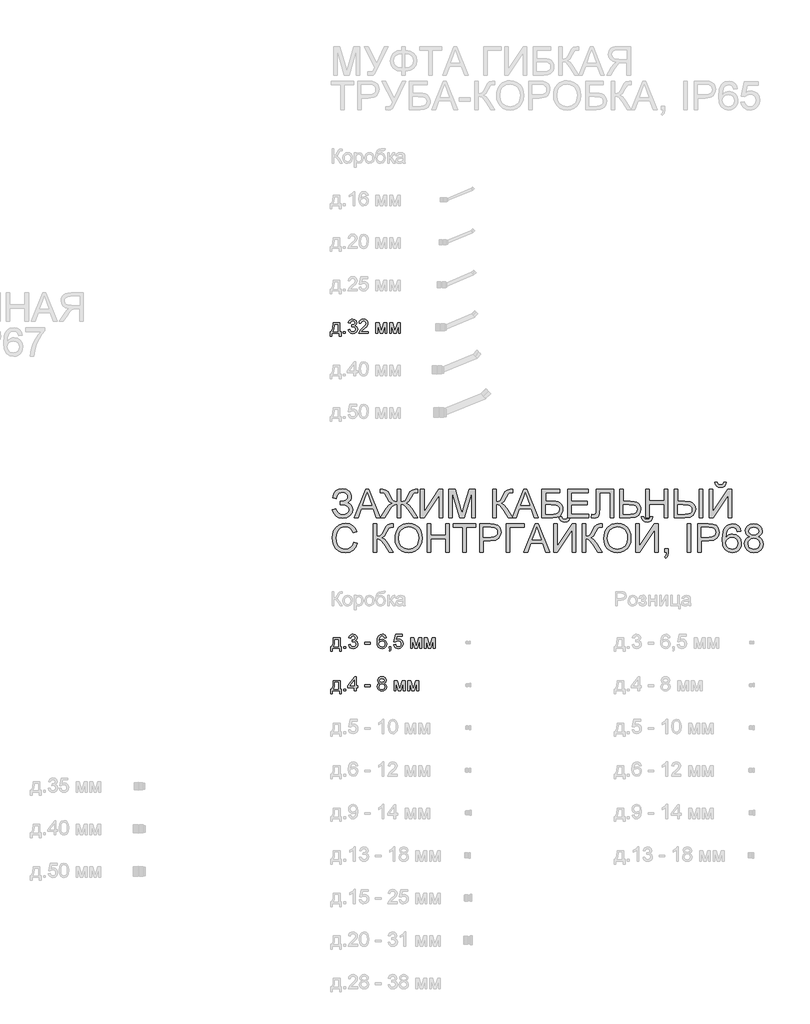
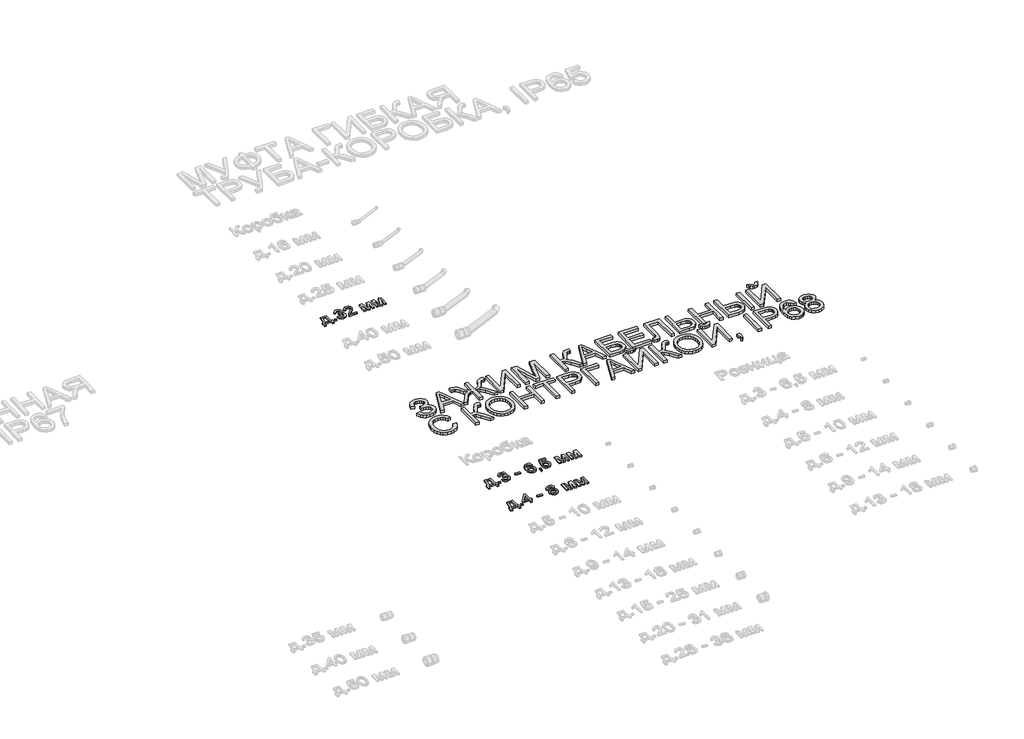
# One storey, part 60 of 98: 4 proxies.
"""IFC4 building model written with IfcOpenShell, lengths in millimetres."""

from ifc_helpers import new_model, si_unit, origin, origin_with_axes, place, context, project, spatial, polyline, outline, extrude, element, save

model = new_model("IFC4")

# Units and contexts
model_context = context("Model", 3, world=origin())
ifc_project = project(units=[si_unit("LENGTHUNIT", "METRE", prefix="MILLI")], contexts=[model_context])

# Site, building, storey
site = spatial("IfcSite", under=ifc_project)
building = spatial("IfcBuilding", under=site)
storey = spatial("IfcBuildingStorey", under=building, Name="Этаж 01", Elevation=0.0)

# Proxies
placement = place(None, origin())
element("IfcBuildingElementProxy", 1, Name="100", ObjectType="100", at=placement, inside=storey, context=model_context, shape_type="SweptSolid", body=[
    extrude(outline(polyline([(14428.905254, -25227.7143815), (14475.9941494, -25227.7143815), (14475.9941494, -25288.9299455), (14485.4119285, -25288.9299455), (14485.4119285, -25321.8921723), (14472.8548897, -25321.8921723), (14472.8548897, -25301.4869843), (14421.0571048, -25301.4869843), (14421.0571048, -25321.8921723), (14408.500066, -25321.8921723), (14408.500066, -25288.9299455), (14416.3482152, -25288.9299455), (14426.0480372, -25264.9808276), (14428.905254, -25227.7143815)]), holes=[polyline([(14439.8926629, -25240.2714203), (14436.949607, -25268.8803768), (14430.4748839, -25288.9299455), (14463.4371106, -25288.9299455), (14463.4371106, -25240.2714203), (14439.8926629, -25240.2714203)])]), origin_with_axes(), (0.0, 0.0, 1.0), 10.0),
    extrude(outline(polyline([(14502.6778568, -25301.4869843), (14502.6778568, -25288.9299455), (14515.2348955, -25288.9299455), (14515.2348955, -25301.4869843), (14502.6778568, -25301.4869843)])), origin_with_axes(), (0.0, 0.0, 1.0), 10.0),
    extrude(outline(polyline([(14535.6400835, -25274.8032769), (14548.1971223, -25273.2336471), (14555.1255666, -25286.4528734), (14568.0872755, -25290.4995754), (14576.6957142, -25289.1077552), (14583.3421156, -25284.9322945), (14589.0074983, -25271.1489824), (14583.3911665, -25258.162748), (14569.1173451, -25253.0246628), (14560.3127027, -25254.3980889), (14561.7106543, -25241.8410502), (14563.7217425, -25241.988203), (14577.9710385, -25238.3829594), (14582.7167162, -25233.8089599), (14584.2986088, -25227.2974486), (14579.7123466, -25217.4749993), (14567.8910718, -25213.5877129), (14555.9226442, -25217.5117875), (14549.7667522, -25229.2840114), (14537.2097134, -25227.7143815), (14540.9069274, -25216.4387984), (14547.4858838, -25208.0204321), (14556.4867299, -25202.7781136), (14567.4496134, -25201.0306742), (14582.5940889, -25204.4765022), (14593.1890903, -25213.8942813), (14596.8556475, -25226.5616846), (14593.3730313, -25238.1377047), (14583.0723355, -25246.4518378), (14596.7575457, -25255.035751), (14601.5645371, -25271.3697116), (14599.1610414, -25283.6079193), (14591.9505543, -25293.8350388), (14581.0673786, -25300.7512203), (14567.6458171, -25303.0566141), (14555.5057113, -25301.0884455), (14545.6219483, -25295.1839395), (14538.7486864, -25286.1524365), (14535.6400835, -25274.8032769)])), origin_with_axes(), (0.0, 0.0, 1.0), 10.0),
    extrude(outline(polyline([(14676.9067697, -25288.9299455), (14676.9067697, -25301.4869843), (14610.9823162, -25301.4869843), (14612.3312168, -25292.8294947), (14619.9586368, -25279.4999037), (14635.6794608, -25264.9440394), (14657.359973, -25244.0238167), (14662.7801011, -25229.7990462), (14657.6665413, -25218.2843397), (14644.3124249, -25213.5877129), (14630.3942228, -25218.1739751), (14625.1089848, -25230.8536412), (14612.551946, -25229.2840114), (14615.5961695, -25217.1377742), (14622.1781915, -25208.2656867), (14631.9546556, -25202.8394273), (14644.5822051, -25201.0306742), (14657.301725, -25203.0417624), (14667.059795, -25209.0750271), (14673.2678036, -25218.088136), (14675.3371398, -25229.0387567), (14673.1053224, -25240.9458706), (14665.6863688, -25253.2576547), (14647.6969393, -25270.4622694), (14633.2514396, -25282.5410616), (14627.5860569, -25288.9299455), (14676.9067697, -25288.9299455)])), origin_with_axes(), (0.0, 0.0, 1.0), 10.0),
    extrude(outline(polyline([(14731.8438143, -25227.7143815), (14753.4507502, -25227.7143815), (14770.1035418, -25286.7717045), (14788.0561832, -25227.7143815), (14808.7556768, -25227.7143815), (14808.7556768, -25301.4869843), (14796.198638, -25301.4869843), (14796.198638, -25242.0863048), (14778.1478948, -25301.4869843), (14761.6667814, -25301.4869843), (14744.4008531, -25239.2413507), (14744.4008531, -25301.4869843), (14731.8438143, -25301.4869843), (14731.8438143, -25227.7143815)])), origin_with_axes(), (0.0, 0.0, 1.0), 10.0),
    extrude(outline(polyline([(14827.5912349, -25227.7143815), (14849.1981708, -25227.7143815), (14865.8509624, -25286.7717045), (14883.8036038, -25227.7143815), (14904.5030974, -25227.7143815), (14904.5030974, -25301.4869843), (14891.9460586, -25301.4869843), (14891.9460586, -25242.0863048), (14873.8953154, -25301.4869843), (14857.414202, -25301.4869843), (14840.1482737, -25239.2413507), (14840.1482737, -25301.4869843), (14827.5912349, -25301.4869843), (14827.5912349, -25227.7143815)])), origin_with_axes(), (0.0, 0.0, 1.0), 10.0),
])
element("IfcBuildingElementProxy", 2, Name="100", ObjectType="100", at=placement, inside=storey, context=model_context, shape_type="SweptSolid", body=[
    extrude(outline(polyline([(14431.7338321, -27449.6891994), (14478.8227275, -27449.6891994), (14478.8227275, -27510.9047634), (14488.2405066, -27510.9047634), (14488.2405066, -27543.8669901), (14475.6834678, -27543.8669901), (14475.6834678, -27523.4618021), (14423.8856829, -27523.4618021), (14423.8856829, -27543.8669901), (14411.3286441, -27543.8669901), (14411.3286441, -27510.9047634), (14419.1767934, -27510.9047634), (14428.8766153, -27486.9556455), (14431.7338321, -27449.6891994)]), holes=[polyline([(14442.721241, -27462.2462382), (14439.7781851, -27490.8551946), (14433.303462, -27510.9047634), (14466.2656887, -27510.9047634), (14466.2656887, -27462.2462382), (14442.721241, -27462.2462382)])]), origin_with_axes(), (0.0, 0.0, 1.0), 10.0),
    extrude(outline(polyline([(14505.5064349, -27523.4618021), (14505.5064349, -27510.9047634), (14518.0634737, -27510.9047634), (14518.0634737, -27523.4618021), (14505.5064349, -27523.4618021)])), origin_with_axes(), (0.0, 0.0, 1.0), 10.0),
    extrude(outline(polyline([(14538.4686617, -27496.7780948), (14551.0257004, -27495.2084649), (14557.9541447, -27508.4276913), (14570.9158536, -27512.4743932), (14579.5242923, -27511.082573), (14586.1706937, -27506.9071124), (14591.8360764, -27493.1238003), (14586.2197446, -27480.1375659), (14571.9459232, -27474.9994807), (14563.1412808, -27476.3729068), (14564.5392324, -27463.815868), (14566.5503206, -27463.9630208), (14580.7996166, -27460.3577772), (14585.5452943, -27455.7837778), (14587.1271869, -27449.2722665), (14582.5409247, -27439.4498172), (14570.7196499, -27435.5625308), (14558.7512223, -27439.4866054), (14552.5953303, -27451.2588292), (14540.0382915, -27449.6891994), (14543.7355056, -27438.4136162), (14550.3144619, -27429.9952499), (14559.3153081, -27424.7529315), (14570.2781915, -27423.005492), (14585.422667, -27426.45132), (14596.0176684, -27435.8690991), (14599.6842257, -27448.5365025), (14596.2016094, -27460.1125226), (14585.9009136, -27468.4266557), (14599.5861238, -27477.0105689), (14604.3931152, -27493.3445295), (14601.9896195, -27505.5827372), (14594.7791324, -27515.8098566), (14583.8959567, -27522.7260382), (14570.4743952, -27525.031432), (14558.3342894, -27523.0632633), (14548.4505265, -27517.1587573), (14541.5772645, -27508.1272543), (14538.4686617, -27496.7780948)])), origin_with_axes(), (0.0, 0.0, 1.0), 10.0),
    extrude(outline(polyline([(14651.4820106, -27493.6388351), (14651.4820106, -27481.0817963), (14690.7227567, -27481.0817963), (14690.7227567, -27493.6388351), (14651.4820106, -27493.6388351)])), origin_with_axes(), (0.0, 0.0, 1.0), 10.0),
    extrude(outline(polyline([(14805.3057355, -27449.6891994), (14792.7486967, -27451.2588292), (14787.9907563, -27440.7864551), (14775.409192, -27435.5625308), (14764.0784266, -27438.6036886), (14755.5067761, -27450.0202932), (14751.9383207, -27472.3997812), (14763.0115688, -27462.3811282), (14776.7335672, -27459.1069785), (14788.3341128, -27461.3449273), (14798.0707229, -27468.0587737), (14804.6742047, -27478.31655), (14806.8753653, -27491.1862884), (14802.7305615, -27508.5135304), (14791.3262197, -27520.7762636), (14774.8696318, -27525.031432), (14760.6234015, -27522.2110034), (14749.2773076, -27513.7497175), (14741.8552884, -27498.8137085), (14739.381282, -27476.5691105), (14742.1281342, -27451.5592662), (14750.3686909, -27434.4588848), (14761.6197486, -27425.8688402), (14776.1940069, -27423.005492), (14787.2120727, -27424.7774569), (14796.0351092, -27430.0933518), (14802.2155267, -27438.5362436), (14805.3057355, -27449.6891994)]), holes=[polyline([(14751.9383207, -27490.9900847), (14754.8445885, -27501.867129), (14762.5701104, -27509.7643292), (14773.8886131, -27512.4743932), (14782.175155, -27511.0703103), (14788.689732, -27506.8580614), (14792.9111779, -27500.2361855), (14794.3183266, -27491.6032214), (14792.929572, -27483.3166794), (14788.7633084, -27476.9983062), (14782.1383668, -27472.9975895), (14773.3735783, -27471.6640172), (14758.1800519, -27476.9983062), (14753.4987535, -27483.1633953), (14751.9383207, -27490.9900847)])]), origin_with_axes(), (0.0, 0.0, 1.0), 10.0),
    extrude(outline(polyline([(14824.1412936, -27523.4618021), (14824.1412936, -27510.9047634), (14836.6983324, -27510.9047634), (14836.6983324, -27523.4618021), (14834.4419895, -27536.3008838), (14827.2805533, -27543.8669901), (14824.1412936, -27539.1581006), (14828.7520813, -27533.7379725), (14830.3952876, -27523.4618021), (14824.1412936, -27523.4618021)])), origin_with_axes(), (0.0, 0.0, 1.0), 10.0),
    extrude(outline(polyline([(14857.1035204, -27496.7780948), (14869.6605592, -27495.2084649), (14875.9881295, -27508.1456484), (14889.109254, -27512.4743932), (14898.1101001, -27510.9691427), (14904.8546034, -27506.4533912), (14909.0668522, -27499.4483049), (14910.4709352, -27490.4750499), (14905.2102226, -27475.5635664), (14898.6036752, -27471.4616821), (14889.3054577, -27470.0943874), (14878.2812606, -27472.2771539), (14871.230189, -27477.9425366), (14858.6731503, -27476.3729068), (14869.6605592, -27424.5751218), (14918.3190844, -27424.5751218), (14918.3190844, -27437.1321606), (14879.8141022, -27437.1321606), (14874.4430251, -27464.7968867), (14883.4132144, -27459.3522331), (14892.8125994, -27457.5373486), (14904.5449694, -27459.7875602), (14914.2846452, -27466.5381948), (14920.8421418, -27476.8266279), (14923.0279739, -27489.690235), (14921.0598053, -27502.2472738), (14915.1552993, -27512.989428), (14903.8490593, -27522.020931), (14889.0602031, -27525.031432), (14876.7269592, -27523.0969858), (14866.9014442, -27517.2936474), (14860.166138, -27508.2958669), (14857.1035204, -27496.7780948)])), origin_with_axes(), (0.0, 0.0, 1.0), 10.0),
    extrude(outline(polyline([(14976.3953887, -27449.6891994), (14998.0023246, -27449.6891994), (15014.6551162, -27508.7465223), (15032.6077576, -27449.6891994), (15053.3072512, -27449.6891994), (15053.3072512, -27523.4618021), (15040.7502124, -27523.4618021), (15040.7502124, -27464.0611227), (15022.6994692, -27523.4618021), (15006.2183558, -27523.4618021), (14988.9524275, -27461.2161686), (14988.9524275, -27523.4618021), (14976.3953887, -27523.4618021), (14976.3953887, -27449.6891994)])), origin_with_axes(), (0.0, 0.0, 1.0), 10.0),
    extrude(outline(polyline([(15072.1428093, -27449.6891994), (15093.7497452, -27449.6891994), (15110.4025368, -27508.7465223), (15128.3551782, -27449.6891994), (15149.0546718, -27449.6891994), (15149.0546718, -27523.4618021), (15136.497633, -27523.4618021), (15136.497633, -27464.0611227), (15118.4468898, -27523.4618021), (15101.9657764, -27523.4618021), (15084.6998481, -27461.2161686), (15084.6998481, -27523.4618021), (15072.1428093, -27523.4618021), (15072.1428093, -27449.6891994)])), origin_with_axes(), (0.0, 0.0, 1.0), 10.0),
])
element("IfcBuildingElementProxy", 3, Name="100", ObjectType="100", at=placement, inside=storey, context=model_context, shape_type="SweptSolid", body=[
    extrude(outline(polyline([(14431.7338321, -27749.6891994), (14478.8227275, -27749.6891994), (14478.8227275, -27810.9047634), (14488.2405066, -27810.9047634), (14488.2405066, -27843.8669901), (14475.6834678, -27843.8669901), (14475.6834678, -27823.4618021), (14423.8856829, -27823.4618021), (14423.8856829, -27843.8669901), (14411.3286441, -27843.8669901), (14411.3286441, -27810.9047634), (14419.1767934, -27810.9047634), (14428.8766153, -27786.9556455), (14431.7338321, -27749.6891994)]), holes=[polyline([(14442.721241, -27762.2462382), (14439.7781851, -27790.8551946), (14433.303462, -27810.9047634), (14466.2656887, -27810.9047634), (14466.2656887, -27762.2462382), (14442.721241, -27762.2462382)])]), origin_with_axes(), (0.0, 0.0, 1.0), 10.0),
    extrude(outline(polyline([(14505.5064349, -27823.4618021), (14505.5064349, -27810.9047634), (14518.0634737, -27810.9047634), (14518.0634737, -27823.4618021), (14505.5064349, -27823.4618021)])), origin_with_axes(), (0.0, 0.0, 1.0), 10.0),
    extrude(outline(polyline([(14579.2790377, -27823.4618021), (14579.2790377, -27799.9173545), (14533.7597721, -27799.9173545), (14533.7597721, -27787.3603157), (14582.4182973, -27724.5751218), (14591.8360764, -27724.5751218), (14591.8360764, -27787.3603157), (14604.3931152, -27787.3603157), (14604.3931152, -27799.9173545), (14591.8360764, -27799.9173545), (14591.8360764, -27823.4618021), (14579.2790377, -27823.4618021)]), holes=[polyline([(14579.2790377, -27787.3603157), (14579.2790377, -27748.5610279), (14549.2108159, -27787.3603157), (14579.2790377, -27787.3603157)])]), origin_with_axes(), (0.0, 0.0, 1.0), 10.0),
    extrude(outline(polyline([(14651.4820106, -27793.6388351), (14651.4820106, -27781.0817963), (14690.7227567, -27781.0817963), (14690.7227567, -27793.6388351), (14651.4820106, -27793.6388351)])), origin_with_axes(), (0.0, 0.0, 1.0), 10.0),
    extrude(outline(polyline([(14759.2469097, -27768.1323501), (14747.8057796, -27760.3332518), (14744.0901715, -27748.1931459), (14746.1135225, -27738.376828), (14752.1835754, -27730.26503), (14761.6197486, -27724.8203765), (14773.7414603, -27723.005492), (14785.9367484, -27724.8632961), (14795.495549, -27730.4367083), (14801.6759665, -27738.677265), (14803.7361056, -27748.5365025), (14800.0695484, -27760.37004), (14788.9472494, -27768.1323501), (14802.3013659, -27777.9793248), (14806.8753653, -27794.2274463), (14804.6067597, -27806.232662), (14797.8009428, -27816.1532132), (14787.2917805, -27822.8118773), (14773.9131386, -27825.031432), (14760.5344967, -27822.8026802), (14750.0253344, -27816.116425), (14743.2195174, -27806.1008377), (14740.9509118, -27793.8840897), (14745.7088523, -27777.2558236), (14759.2469097, -27768.1323501)]), holes=[polyline([(14756.6472103, -27748.5610279), (14761.0985824, -27758.4202654), (14774.0602914, -27762.2462382), (14786.7644829, -27758.4447909), (14791.1790669, -27749.1251137), (14786.6173301, -27739.4743427), (14773.9131386, -27735.5625308), (14761.1721588, -27739.3885035), (14756.6472103, -27748.5610279)]), polyline([(14753.5079506, -27793.4426313), (14755.6048779, -27802.8971986), (14763.0238315, -27809.9727957), (14774.0112404, -27812.4743932), (14782.5583655, -27811.1592151), (14788.9717749, -27807.2136807), (14794.3183266, -27793.8350388), (14788.8000966, -27780.1988795), (14782.2395344, -27776.1521776), (14773.5943075, -27774.8032769), (14765.1667441, -27776.1337835), (14758.817714, -27780.1253031), (14753.5079506, -27793.4426313)])]), origin_with_axes(), (0.0, 0.0, 1.0), 10.0),
    extrude(outline(polyline([(14860.2427801, -27749.6891994), (14881.849716, -27749.6891994), (14898.5025076, -27808.7465223), (14916.455149, -27749.6891994), (14937.1546426, -27749.6891994), (14937.1546426, -27823.4618021), (14924.5976038, -27823.4618021), (14924.5976038, -27764.0611227), (14906.5468606, -27823.4618021), (14890.0657472, -27823.4618021), (14872.7998189, -27761.2161686), (14872.7998189, -27823.4618021), (14860.2427801, -27823.4618021), (14860.2427801, -27749.6891994)])), origin_with_axes(), (0.0, 0.0, 1.0), 10.0),
    extrude(outline(polyline([(14955.9902007, -27749.6891994), (14977.5971366, -27749.6891994), (14994.2499282, -27808.7465223), (15012.2025696, -27749.6891994), (15032.9020632, -27749.6891994), (15032.9020632, -27823.4618021), (15020.3450244, -27823.4618021), (15020.3450244, -27764.0611227), (15002.2942812, -27823.4618021), (14985.8131678, -27823.4618021), (14968.5472395, -27761.2161686), (14968.5472395, -27823.4618021), (14955.9902007, -27823.4618021), (14955.9902007, -27749.6891994)])), origin_with_axes(), (0.0, 0.0, 1.0), 10.0),
])
element("IfcBuildingElementProxy", 4, Name="200", ObjectType="200", at=placement, inside=storey, context=model_context, shape_type="SweptSolid", body=[
    extrude(outline(polyline([(14423.8856829, -26544.9803098), (14448.9997604, -26538.7017905), (14454.3033925, -26552.2950302), (14464.4262788, -26565.9005326), (14479.0005371, -26576.109258), (14497.6582857, -26579.5121665), (14516.5612888, -26576.9553866), (14530.9883944, -26569.285047), (14540.130262, -26557.9972011), (14543.1775512, -26544.5879024), (14539.8482191, -26530.5409415), (14529.860223, -26519.694554), (14514.1332677, -26512.7599784), (14493.5870582, -26510.4484532), (14480.3923574, -26510.4484532), (14480.3923574, -26485.3343757), (14508.8173728, -26483.298762), (14518.0818678, -26479.6812557), (14526.2059285, -26472.8999643), (14531.8713112, -26463.9665631), (14533.7597721, -26453.8927278), (14531.2459118, -26442.0653217), (14523.7043309, -26431.8933845), (14511.8707934, -26424.8852325), (14496.4810633, -26422.5491818), (14482.5689925, -26424.3456723), (14470.8519509, -26429.7351435), (14461.8756303, -26438.0921961), (14456.1857221, -26448.7914308), (14452.1390201, -26466.4988175), (14427.0249426, -26460.2202982), (14434.8271066, -26432.7517758), (14448.9629722, -26413.1314028), (14469.4325396, -26401.3591789), (14496.2358086, -26397.4351043), (14522.0917815, -26401.5124631), (14541.9758033, -26413.7445394), (14554.6493381, -26431.433532), (14558.8738497, -26451.8816396), (14557.2306434, -26465.0978003), (14552.3010247, -26476.7381997), (14544.0849935, -26486.802838), (14532.5825497, -26495.291715), (14546.5498028, -26501.7235186), (14558.0399838, -26512.5821688), (14565.7287175, -26526.935698), (14568.2916287, -26543.8521384), (14563.3742727, -26567.6357094), (14548.6222047, -26587.1886374), (14525.7522074, -26600.2668424), (14496.4810633, -26604.626244), (14471.0113665, -26600.8983731), (14450.4222375, -26589.7147605), (14434.7136763, -26571.075406), (14423.8856829, -26544.9803098)])), origin_with_axes(), (0.0, 0.0, 1.0), 20.0),
    extrude(outline(polyline([(14579.4261905, -26601.4869843), (14659.6244654, -26400.574364), (14681.0106721, -26400.574364), (14761.208947, -26601.4869843), (14734.6723924, -26601.4869843), (14711.667505, -26538.7017905), (14628.9185815, -26538.7017905), (14605.962745, -26601.4869843), (14579.4261905, -26601.4869843)]), holes=[polyline([(14638.1401569, -26513.5877129), (14702.4949806, -26513.5877129), (14684.3951864, -26464.1934237), (14670.3175687, -26425.6884415), (14657.8095809, -26459.8769416), (14638.1401569, -26513.5877129)])]), origin_with_axes(), (0.0, 0.0, 1.0), 20.0),
    extrude(outline(polyline([(14907.3316755, -26400.574364), (14907.3316755, -26488.4736354), (14925.7012498, -26486.7813782), (14937.2527444, -26481.7046067), (14946.2903788, -26469.9569083), (14957.1183722, -26448.2518706), (14971.3431426, -26420.1702116), (14987.2601703, -26406.2152213), (15009.8971757, -26400.574364), (15026.6235438, -26400.8686696), (15026.6235438, -26425.6884415), (15021.1298393, -26425.5412887), (15015.4889821, -26425.3941359), (15003.7535464, -26426.9269776), (14995.5252525, -26431.5255025), (14980.3194633, -26457.1791403), (14964.2552829, -26485.8984614), (14944.5613334, -26498.5781275), (14964.4146984, -26510.3013004), (14983.6549268, -26534.4834102), (15026.6235438, -26601.4869843), (14997.4382388, -26601.4869843), (14960.9933959, -26544.6369533), (14935.9038438, -26515.745954), (14923.6717674, -26509.4183836), (14907.3316755, -26507.3091935), (14907.3316755, -26601.4869843), (14882.217598, -26601.4869843), (14882.217598, -26507.3091935), (14868.4649427, -26508.9462684), (14856.4413328, -26513.8574931), (14844.3441465, -26524.176583), (14830.3707621, -26542.0372539), (14828.5558776, -26544.6369533), (14792.1110346, -26601.4869843), (14762.9257296, -26601.4869843), (14805.8452958, -26534.4834102), (14825.3062533, -26510.227724), (14845.036991, -26498.5781275), (14826.3976365, -26487.2228366), (14809.2298101, -26457.1791403), (14793.5825626, -26430.9859423), (14785.5014214, -26427.0128167), (14774.2074442, -26425.6884415), (14762.9257296, -26425.9827471), (14762.9257296, -26400.8686696), (14778.7691809, -26400.574364), (14802.3136286, -26406.0925939), (14817.9363507, -26419.924957), (14832.4309013, -26448.3009215), (14843.265026, -26470.2450825), (14852.2229526, -26481.827234), (14863.7315277, -26486.6894077), (14882.217598, -26488.4736354), (14882.217598, -26400.574364), (14907.3316755, -26400.574364)])), origin_with_axes(), (0.0, 0.0, 1.0), 20.0),
    extrude(outline(polyline([(15045.4591019, -26400.574364), (15070.5731795, -26400.574364), (15070.5731795, -26559.6955897), (15175.7383792, -26400.574364), (15202.4220866, -26400.574364), (15202.4220866, -26601.4869843), (15177.308009, -26601.4869843), (15177.308009, -26442.8072171), (15072.388064, -26601.4869843), (15045.4591019, -26601.4869843), (15045.4591019, -26400.574364)])), origin_with_axes(), (0.0, 0.0, 1.0), 20.0),
    extrude(outline(polyline([(15246.3717222, -26601.4869843), (15246.3717222, -26400.574364), (15289.5855939, -26400.574364), (15330.6902755, -26542.1844067), (15338.9798832, -26571.7621191), (15347.9562038, -26539.73186), (15388.3741724, -26400.574364), (15431.5880441, -26400.574364), (15431.5880441, -26601.4869843), (15406.4739665, -26601.4869843), (15406.4739665, -26425.6884415), (15356.0005568, -26601.4869843), (15321.9592095, -26601.4869843), (15271.4857998, -26425.6884415), (15271.4857998, -26601.4869843), (15246.3717222, -26601.4869843)])), origin_with_axes(), (0.0, 0.0, 1.0), 20.0),
    extrude(outline(polyline([(15554.0191721, -26400.574364), (15579.1332496, -26400.574364), (15579.1332496, -26488.4736354), (15596.1355292, -26486.812035), (15607.2149086, -26481.827234), (15616.1728352, -26470.0979297), (15626.8107562, -26448.2028196), (15640.6676447, -26420.1211607), (15656.3639431, -26406.2152213), (15678.8047448, -26400.574364), (15695.2858582, -26400.8686696), (15695.2858582, -26425.9827471), (15689.7431028, -26425.8355943), (15684.2003474, -26425.6884415), (15672.6979037, -26427.1967577), (15664.5799744, -26431.7217063), (15649.6684908, -26457.5715478), (15631.8875277, -26489.0622466), (15614.548023, -26499.4610443), (15633.9354042, -26510.8163352), (15653.0530052, -26534.4834102), (15695.2858582, -26601.4869843), (15666.1496042, -26601.4869843), (15630.4405252, -26544.882208), (15605.3019222, -26515.329021), (15593.6952453, -26509.3141504), (15579.1332496, -26507.3091935), (15579.1332496, -26601.4869843), (15554.0191721, -26601.4869843), (15554.0191721, -26400.574364)])), origin_with_axes(), (0.0, 0.0, 1.0), 20.0),
    extrude(outline(polyline([(15693.8633812, -26601.4869843), (15774.0616561, -26400.574364), (15795.4478628, -26400.574364), (15875.6461377, -26601.4869843), (15849.1095831, -26601.4869843), (15826.1046957, -26538.7017905), (15743.3557723, -26538.7017905), (15720.3999358, -26601.4869843), (15693.8633812, -26601.4869843)]), holes=[polyline([(15752.5773476, -26513.5877129), (15816.9321713, -26513.5877129), (15798.8323771, -26464.1934237), (15784.7547595, -26425.6884415), (15772.2467716, -26459.8769416), (15752.5773476, -26513.5877129)])]), origin_with_axes(), (0.0, 0.0, 1.0), 20.0),
    extrude(outline(polyline([(15902.4769979, -26400.574364), (16028.0473856, -26400.574364), (16028.0473856, -26425.6884415), (15927.5910754, -26425.6884415), (15927.5910754, -26485.3343757), (15974.6309199, -26485.3343757), (15998.0159521, -26486.6096999), (16016.078958, -26490.4356727), (16029.9481092, -26497.8055753), (16040.7515772, -26509.7126892), (16047.7045469, -26525.0411057), (16050.0222034, -26542.674916), (16048.3728658, -26557.4821663), (16043.424853, -26571.2961352), (16035.2026904, -26583.3933215), (16023.7309035, -26593.0502239), (16006.0357795, -26599.3777942), (15979.1436057, -26601.4869843), (15902.4769979, -26601.4869843), (15902.4769979, -26400.574364)]), holes=[polyline([(15927.5910754, -26576.3729068), (15981.3999486, -26576.3729068), (16000.4194478, -26574.3005049), (16014.0188188, -26568.0832991), (16022.1857991, -26557.7212896), (16024.9081259, -26543.2144763), (16023.3507588, -26532.4110083), (16018.6786575, -26523.5450523), (16011.229047, -26516.9722273), (16001.3391527, -26513.0481527), (15963.4963582, -26510.4484532), (15927.5910754, -26510.4484532), (15927.5910754, -26576.3729068)])]), origin_with_axes(), (0.0, 0.0, 1.0), 20.0),
    extrude(outline(polyline([(16084.5540601, -26601.4869843), (16084.5540601, -26400.574364), (16228.9600059, -26400.574364), (16228.9600059, -26425.6884415), (16109.6681376, -26425.6884415), (16109.6681376, -26485.3343757), (16222.6814865, -26485.3343757), (16222.6814865, -26510.4484532), (16109.6681376, -26510.4484532), (16109.6681376, -26576.3729068), (16232.0992656, -26576.3729068), (16232.0992656, -26601.4869843), (16084.5540601, -26601.4869843)])), origin_with_axes(), (0.0, 0.0, 1.0), 20.0),
    extrude(outline(polyline([(16285.4666804, -26400.574364), (16407.8978083, -26400.574364), (16407.8978083, -26601.4869843), (16382.7837308, -26601.4869843), (16382.7837308, -26425.6884415), (16310.5807579, -26425.6884415), (16310.5807579, -26528.2048909), (16307.6622274, -26573.9448856), (16303.1434102, -26586.8698064), (16295.4240197, -26596.5573656), (16284.8535437, -26602.6090244), (16271.7814701, -26604.626244), (16250.9348237, -26601.4869843), (16254.0740834, -26576.3729068), (16266.0915619, -26579.5121665), (16274.5835047, -26577.8260406), (16280.6351635, -26572.7676632), (16284.2588011, -26561.4552919), (16285.4666804, -26541.0071843), (16285.4666804, -26400.574364)])), origin_with_axes(), (0.0, 0.0, 1.0), 20.0),
    extrude(outline(polyline([(16451.847444, -26400.574364), (16476.9615216, -26400.574364), (16476.9615216, -26485.3343757), (16524.001366, -26485.3343757), (16552.383462, -26487.3025444), (16571.7033981, -26493.2070504), (16584.4075896, -26502.5022021), (16592.9424519, -26514.642308), (16597.7801002, -26528.407226), (16599.3926496, -26542.5768141), (16595.5176259, -26564.6252084), (16583.8925548, -26583.7795976), (16574.4747758, -26591.5265793), (16561.7215333, -26597.0601376), (16526.208658, -26601.4869843), (16451.847444, -26601.4869843), (16451.847444, -26400.574364)]), holes=[polyline([(16476.9615216, -26576.3729068), (16526.1596071, -26576.3729068), (16550.9058026, -26573.8897033), (16565.2041495, -26566.4400929), (16572.0099664, -26555.4833408), (16574.278572, -26542.4787123), (16572.6353658, -26531.9450245), (16567.7057471, -26523.1035939), (16560.0354075, -26516.5246375), (16550.1700386, -26512.7783725), (16513.0139571, -26510.4484532), (16476.9615216, -26510.4484532), (16476.9615216, -26576.3729068)])]), origin_with_axes(), (0.0, 0.0, 1.0), 20.0),
    extrude(outline(polyline([(16633.9245062, -26601.4869843), (16633.9245062, -26400.574364), (16659.0385837, -26400.574364), (16659.0385837, -26482.195116), (16765.7734133, -26482.195116), (16765.7734133, -26400.574364), (16790.8874908, -26400.574364), (16790.8874908, -26601.4869843), (16765.7734133, -26601.4869843), (16765.7734133, -26507.3091935), (16659.0385837, -26507.3091935), (16659.0385837, -26601.4869843), (16633.9245062, -26601.4869843)])), origin_with_axes(), (0.0, 0.0, 1.0), 20.0),
    extrude(outline(polyline([(17010.6356692, -26400.574364), (17035.7497468, -26400.574364), (17035.7497468, -26601.4869843), (17010.6356692, -26601.4869843), (17010.6356692, -26400.574364)])), origin_with_axes(), (0.0, 0.0, 1.0), 20.0),
    extrude(outline(polyline([(16834.8371265, -26400.574364), (16859.951204, -26400.574364), (16859.951204, -26485.3343757), (16908.2173218, -26485.3343757), (16947.4948561, -26489.7244342), (16961.0543733, -26495.2120073), (16970.5610572, -26502.8946096), (16981.7814581, -26521.6320659), (16985.5215917, -26542.7239669), (16981.5668603, -26564.7539671), (16969.7026659, -26583.853174), (16960.0963473, -26591.567966), (16947.0963173, -26597.0785317), (16910.9151231, -26601.4869843), (16834.8371265, -26601.4869843), (16834.8371265, -26400.574364)]), holes=[polyline([(16859.951204, -26576.3729068), (16910.6698684, -26576.3729068), (16933.2271661, -26574.3802126), (16948.6107649, -26568.4021302), (16957.4583268, -26558.0339893), (16960.4075142, -26542.8711197), (16958.6232865, -26531.920499), (16953.2706035, -26522.9073901), (16945.0913604, -26516.3223024), (16934.8274528, -26512.6557452), (16897.0827601, -26510.4484532), (16859.951204, -26510.4484532), (16859.951204, -26576.3729068)])]), origin_with_axes(), (0.0, 0.0, 1.0), 20.0),
    extrude(outline(polyline([(17183.2949523, -26350.3462089), (17202.1305105, -26350.3462089), (17198.0776772, -26366.4287835), (17189.9413537, -26378.2807151), (17178.0894221, -26385.5831727), (17162.8897643, -26388.0173252), (17146.3963882, -26385.6015668), (17133.6063575, -26378.3542915), (17124.8630287, -26366.520754), (17120.5097585, -26350.3462089), (17139.3453166, -26350.3462089), (17146.4086509, -26364.497403), (17160.6334214, -26369.1817671), (17176.231618, -26364.6445558), (17183.2949523, -26350.3462089)])), origin_with_axes(), (0.0, 0.0, 1.0), 20.0),
    extrude(outline(polyline([(17082.8386422, -26400.574364), (17107.9527197, -26400.574364), (17107.9527197, -26559.6955897), (17213.1179194, -26400.574364), (17239.8016268, -26400.574364), (17239.8016268, -26601.4869843), (17214.6875492, -26601.4869843), (17214.6875492, -26442.8072171), (17109.7676042, -26601.4869843), (17082.8386422, -26601.4869843), (17082.8386422, -26400.574364)])), origin_with_axes(), (0.0, 0.0, 1.0), 20.0),
    extrude(outline(polyline([(14574.5701481, -26774.018462), (14599.6842257, -26780.4931851), (14588.0959428, -26809.7581978), (14569.9103095, -26831.1382731), (14546.0225053, -26844.216478), (14517.3277097, -26848.5758797), (14488.197587, -26845.2772045), (14465.0639409, -26835.3811788), (14447.3320287, -26819.2311592), (14434.407108, -26797.1705022), (14426.5160392, -26771.2348216), (14423.8856829, -26743.4597309), (14426.8593957, -26714.1640614), (14435.7805341, -26688.8660428), (14450.1831142, -26668.3688843), (14469.6011522, -26653.4757949), (14492.6305651, -26644.4075037), (14517.8672699, -26641.38474), (14545.4032373, -26645.2965519), (14568.1690014, -26657.0319875), (14585.4533238, -26675.8675457), (14596.544966, -26701.0797251), (14571.4308884, -26707.0639389), (14562.7243479, -26688.7495469), (14550.8294967, -26676.1863767), (14535.5991821, -26668.9207073), (14516.8862513, -26666.4988175), (14495.3161036, -26669.1843561), (14477.5964542, -26677.2409718), (14464.1503673, -26689.822536), (14455.4009071, -26706.0829202), (14450.6000471, -26724.4647572), (14448.9997604, -26743.41068), (14450.8943527, -26766.6117712), (14456.5781295, -26786.6736026), (14466.2656887, -26802.8297536), (14480.1716282, -26814.3138032), (14496.8428139, -26821.1748024), (14514.8261121, -26823.4618021), (14535.7892545, -26820.3470679), (14553.2575179, -26811.0028652), (14566.4460874, -26795.527296), (14574.5701481, -26774.018462)])), origin_with_axes(), (0.0, 0.0, 1.0), 20.0),
    extrude(outline(polyline([(14712.6975746, -26644.5239997), (14737.8116521, -26644.5239997), (14737.8116521, -26732.4232711), (14754.8139317, -26730.7616707), (14765.8933111, -26725.7768697), (14774.8512377, -26714.0475654), (14785.4891587, -26692.1524553), (14799.3460472, -26664.0707964), (14815.0423456, -26650.164857), (14837.4831473, -26644.5239997), (14853.9642607, -26644.8183053), (14853.9642607, -26669.9323828), (14848.4215053, -26669.78523), (14842.8787499, -26669.6380772), (14831.3763062, -26671.1463934), (14823.2583769, -26675.671342), (14808.3468933, -26701.5211835), (14790.5659302, -26733.0118823), (14773.2264255, -26743.41068), (14792.6138067, -26754.7659709), (14811.7314077, -26778.4330459), (14853.9642607, -26845.43662), (14824.8280067, -26845.43662), (14789.1189277, -26788.8318437), (14763.9803247, -26759.2786567), (14752.3736478, -26753.2637861), (14737.8116521, -26751.2588292), (14737.8116521, -26845.43662), (14712.6975746, -26845.43662), (14712.6975746, -26644.5239997)])), origin_with_axes(), (0.0, 0.0, 1.0), 20.0),
    extrude(outline(polyline([(14866.5212995, -26747.6290602), (14868.1951626, -26724.0631527), (14873.2167518, -26703.2011779), (14881.5860672, -26685.0431358), (14893.3031087, -26669.5890263), (14907.665835, -26657.249651), (14923.9722044, -26648.4358116), (14942.222217, -26643.1475079), (14962.4158729, -26641.38474), (14988.7684865, -26644.695678), (15012.3987733, -26654.6284918), (15032.0191464, -26670.4842058), (15046.3420187, -26691.5638441), (15055.0976102, -26716.8495999), (15058.0161407, -26745.3236664), (15054.9443261, -26774.1778775), (15045.7288821, -26799.8192526), (15030.8787122, -26820.9356791), (15010.9027199, -26836.2150446), (14987.4747681, -26845.4856709), (14962.2687201, -26848.5758797), (14935.5114363, -26845.1607085), (14911.7462594, -26834.9151949), (14892.1749373, -26818.7651753), (14877.9992177, -26797.6364861), (14869.3907791, -26773.3256176), (14866.5212995, -26747.6290602)]), holes=[polyline([(14891.635377, -26747.8743149), (14896.6569663, -26779.3037), (14911.721734, -26803.2528179), (14934.3648708, -26818.4095561), (14962.1215673, -26823.4618021), (14990.282934, -26818.3605051), (15012.962859, -26803.0566141), (15021.6862608, -26791.7840967), (15027.9172621, -26778.3717323), (15032.9020632, -26745.1274626), (15030.7683476, -26722.8951274), (15024.3672009, -26703.6794245), (15013.8641699, -26687.964732), (14999.4248016, -26676.2354277), (14982.0055891, -26668.9329701), (14962.5630257, -26666.4988175), (14935.5482245, -26671.189313), (14912.5801253, -26685.2607993), (14903.4167979, -26696.2098872), (14896.8715641, -26710.2951691), (14891.635377, -26747.8743149)])]), origin_with_axes(), (0.0, 0.0, 1.0), 20.0),
    extrude(outline(polyline([(15092.5479973, -26845.43662), (15092.5479973, -26644.5239997), (15117.6620749, -26644.5239997), (15117.6620749, -26726.1447517), (15224.3969044, -26726.1447517), (15224.3969044, -26644.5239997), (15249.5109819, -26644.5239997), (15249.5109819, -26845.43662), (15224.3969044, -26845.43662), (15224.3969044, -26751.2588292), (15117.6620749, -26751.2588292), (15117.6620749, -26845.43662), (15092.5479973, -26845.43662)])), origin_with_axes(), (0.0, 0.0, 1.0), 20.0),
    extrude(outline(polyline([(15343.6887727, -26845.43662), (15343.6887727, -26669.6380772), (15277.7643192, -26669.6380772), (15277.7643192, -26644.5239997), (15434.7273038, -26644.5239997), (15434.7273038, -26669.6380772), (15368.8028502, -26669.6380772), (15368.8028502, -26845.43662), (15343.6887727, -26845.43662)])), origin_with_axes(), (0.0, 0.0, 1.0), 20.0),
    extrude(outline(polyline([(15462.980641, -26845.43662), (15462.980641, -26644.5239997), (15537.4399568, -26644.5239997), (15567.4591276, -26646.4369861), (15591.8619666, -26655.8302397), (15600.7340541, -26664.1566355), (15607.6808924, -26675.254409), (15612.1690528, -26688.3448767), (15613.6651062, -26702.6493549), (15609.6245356, -26726.3286927), (15597.5028239, -26746.0594304), (15587.7953378, -26753.8278718), (15574.8351616, -26759.3767586), (15539.1567395, -26763.815868), (15488.0947185, -26763.815868), (15488.0947185, -26845.43662), (15462.980641, -26845.43662)]), holes=[polyline([(15488.0947185, -26738.7017905), (15540.6282675, -26738.7017905), (15562.8973909, -26736.3963966), (15577.6126707, -26729.4802151), (15585.8164392, -26718.3824416), (15588.5510287, -26703.5322717), (15586.9384793, -26692.2505572), (15582.100831, -26682.7346763), (15574.6389579, -26675.5732401), (15565.1537338, -26671.3548599), (15540.0396563, -26669.6380772), (15488.0947185, -26669.6380772), (15488.0947185, -26738.7017905)])]), origin_with_axes(), (0.0, 0.0, 1.0), 20.0),
    extrude(outline(polyline([(15651.3362225, -26644.5239997), (15776.9066102, -26644.5239997), (15776.9066102, -26669.6380772), (15676.4503001, -26669.6380772), (15676.4503001, -26845.43662), (15651.3362225, -26845.43662), (15651.3362225, -26644.5239997)])), origin_with_axes(), (0.0, 0.0, 1.0), 20.0),
    extrude(outline(polyline([(15775.4841332, -26845.43662), (15855.6824081, -26644.5239997), (15877.0686148, -26644.5239997), (15957.2668897, -26845.43662), (15930.7303351, -26845.43662), (15907.7254477, -26782.6514262), (15824.9765243, -26782.6514262), (15802.0206878, -26845.43662), (15775.4841332, -26845.43662)]), holes=[polyline([(15834.1980996, -26757.5373486), (15898.5529233, -26757.5373486), (15880.4531291, -26708.1430594), (15866.3755114, -26669.6380772), (15853.8675236, -26703.8265773), (15834.1980996, -26757.5373486)])]), origin_with_axes(), (0.0, 0.0, 1.0), 20.0),
    extrude(outline(polyline([(16084.5540601, -26594.2958446), (16103.3896182, -26594.2958446), (16099.3367849, -26610.3784192), (16091.2004614, -26622.2303508), (16079.3485298, -26629.5328084), (16064.1488721, -26631.9669609), (16047.6554959, -26629.5512025), (16034.8654652, -26622.3039272), (16026.1221365, -26610.4703897), (16021.7688662, -26594.2958446), (16040.6044244, -26594.2958446), (16047.6677587, -26608.4470387), (16061.8925292, -26613.1314028), (16077.4907257, -26608.5941915), (16084.5540601, -26594.2958446)])), origin_with_axes(), (0.0, 0.0, 1.0), 20.0),
    extrude(outline(polyline([(15984.0977499, -26644.5239997), (16009.2118274, -26644.5239997), (16009.2118274, -26803.6452253), (16114.3770271, -26644.5239997), (16141.0607345, -26644.5239997), (16141.0607345, -26845.43662), (16115.946657, -26845.43662), (16115.946657, -26686.7568527), (16011.026712, -26845.43662), (15984.0977499, -26845.43662), (15984.0977499, -26644.5239997)])), origin_with_axes(), (0.0, 0.0, 1.0), 20.0),
    extrude(outline(polyline([(16185.0103702, -26644.5239997), (16210.1244477, -26644.5239997), (16210.1244477, -26732.4232711), (16227.1267273, -26730.7616707), (16238.2061067, -26725.7768697), (16247.1640333, -26714.0475654), (16257.8019543, -26692.1524553), (16271.6588428, -26664.0707964), (16287.3551413, -26650.164857), (16309.795943, -26644.5239997), (16326.2770564, -26644.8183053), (16326.2770564, -26669.9323828), (16320.734301, -26669.78523), (16315.1915456, -26669.6380772), (16303.6891018, -26671.1463934), (16295.5711725, -26675.671342), (16280.6596889, -26701.5211835), (16262.8787258, -26733.0118823), (16245.5392211, -26743.41068), (16264.9266023, -26754.7659709), (16284.0442033, -26778.4330459), (16326.2770564, -26845.43662), (16297.1408023, -26845.43662), (16261.4317233, -26788.8318437), (16236.2931203, -26759.2786567), (16224.6864434, -26753.2637861), (16210.1244477, -26751.2588292), (16210.1244477, -26845.43662), (16185.0103702, -26845.43662), (16185.0103702, -26644.5239997)])), origin_with_axes(), (0.0, 0.0, 1.0), 20.0),
    extrude(outline(polyline([(16338.8340951, -26747.6290602), (16340.5079582, -26724.0631527), (16345.5295474, -26703.2011779), (16353.8988628, -26685.0431358), (16365.6159044, -26669.5890263), (16379.9786306, -26657.249651), (16396.285, -26648.4358116), (16414.5350127, -26643.1475079), (16434.7286685, -26641.38474), (16461.0812821, -26644.695678), (16484.7115689, -26654.6284918), (16504.331942, -26670.4842058), (16518.6548144, -26691.5638441), (16527.4104058, -26716.8495999), (16530.3289363, -26745.3236664), (16527.2571217, -26774.1778775), (16518.0416777, -26799.8192526), (16503.1915078, -26820.9356791), (16483.2155155, -26836.2150446), (16459.7875638, -26845.4856709), (16434.5815157, -26848.5758797), (16407.8242319, -26845.1607085), (16384.0590551, -26834.9151949), (16364.4877329, -26818.7651753), (16350.3120134, -26797.6364861), (16341.7035747, -26773.3256176), (16338.8340951, -26747.6290602)]), holes=[polyline([(16363.9481727, -26747.8743149), (16368.9697619, -26779.3037), (16384.0345296, -26803.2528179), (16406.6776664, -26818.4095561), (16434.4343629, -26823.4618021), (16462.5957297, -26818.3605051), (16485.2756547, -26803.0566141), (16493.9990565, -26791.7840967), (16500.2300578, -26778.3717323), (16505.2148588, -26745.1274626), (16503.0811432, -26722.8951274), (16496.6799965, -26703.6794245), (16486.1769656, -26687.964732), (16471.7375972, -26676.2354277), (16454.3183848, -26668.9329701), (16434.8758213, -26666.4988175), (16407.8610201, -26671.189313), (16384.8929209, -26685.2607993), (16375.7295936, -26696.2098872), (16369.1843597, -26710.2951691), (16363.9481727, -26747.8743149)])]), origin_with_axes(), (0.0, 0.0, 1.0), 20.0),
    extrude(outline(polyline([(16665.3171031, -26594.2958446), (16684.1526613, -26594.2958446), (16680.0998279, -26610.3784192), (16671.9635045, -26622.2303508), (16660.1115729, -26629.5328084), (16644.9119151, -26631.9669609), (16628.418539, -26629.5512025), (16615.6285083, -26622.3039272), (16606.8851795, -26610.4703897), (16602.5319093, -26594.2958446), (16621.3674674, -26594.2958446), (16628.4308017, -26608.4470387), (16642.6555722, -26613.1314028), (16658.2537688, -26608.5941915), (16665.3171031, -26594.2958446)])), origin_with_axes(), (0.0, 0.0, 1.0), 20.0),
    extrude(outline(polyline([(16564.860793, -26644.5239997), (16589.9748705, -26644.5239997), (16589.9748705, -26803.6452253), (16695.1400702, -26644.5239997), (16721.8237776, -26644.5239997), (16721.8237776, -26845.43662), (16696.7097, -26845.43662), (16696.7097, -26686.7568527), (16591.789755, -26845.43662), (16564.860793, -26845.43662), (16564.860793, -26644.5239997)])), origin_with_axes(), (0.0, 0.0, 1.0), 20.0),
    extrude(outline(polyline([(16768.9126729, -26845.43662), (16768.9126729, -26820.3225425), (16794.0267505, -26820.3225425), (16794.0267505, -26845.43662), (16789.5140647, -26871.1147833), (16783.6770037, -26879.790667), (16775.1911923, -26886.246996), (16768.9126729, -26876.8292169), (16778.1342483, -26865.9889608), (16781.4206608, -26845.43662), (16768.9126729, -26845.43662)])), origin_with_axes(), (0.0, 0.0, 1.0), 20.0),
    extrude(outline(polyline([(16925.8756576, -26845.43662), (16925.8756576, -26644.5239997), (16950.9897351, -26644.5239997), (16950.9897351, -26845.43662), (16925.8756576, -26845.43662)])), origin_with_axes(), (0.0, 0.0, 1.0), 20.0),
    extrude(outline(polyline([(17001.2178902, -26845.43662), (17001.2178902, -26644.5239997), (17075.677206, -26644.5239997), (17105.6963768, -26646.4369861), (17130.0992158, -26655.8302397), (17138.9713033, -26664.1566355), (17145.9181416, -26675.254409), (17150.4063019, -26688.3448767), (17151.9023554, -26702.6493549), (17147.8617848, -26726.3286927), (17135.7400731, -26746.0594304), (17126.0325869, -26753.8278718), (17113.0724108, -26759.3767586), (17077.3939886, -26763.815868), (17026.3319677, -26763.815868), (17026.3319677, -26845.43662), (17001.2178902, -26845.43662)]), holes=[polyline([(17026.3319677, -26738.7017905), (17078.8655166, -26738.7017905), (17101.1346401, -26736.3963966), (17115.8499199, -26729.4802151), (17124.0536884, -26718.3824416), (17126.7882779, -26703.5322717), (17125.1757284, -26692.2505572), (17120.3380802, -26682.7346763), (17112.8762071, -26675.5732401), (17103.390983, -26671.3548599), (17078.2769054, -26669.6380772), (17026.3319677, -26669.6380772), (17026.3319677, -26738.7017905)])]), origin_with_axes(), (0.0, 0.0, 1.0), 20.0),
    extrude(outline(polyline([(17305.7260803, -26697.8914145), (17280.6120028, -26701.0306742), (17271.0961218, -26680.0859259), (17259.7040427, -26672.2500394), (17245.9329934, -26669.6380772), (17223.2714625, -26675.7203929), (17213.8352893, -26685.3282443), (17206.1281615, -26698.5536021), (17200.9226313, -26717.2604015), (17198.9912508, -26743.3125781), (17209.0650861, -26731.5587484), (17221.1377469, -26723.2752721), (17234.5347829, -26718.3640475), (17248.5817437, -26716.7269726), (17271.7828349, -26721.2028702), (17291.2560552, -26734.630563), (17304.4630188, -26755.1461156), (17308.86534, -26780.8855926), (17306.7929381, -26798.8688908), (17300.5757324, -26815.5400765), (17290.7287576, -26829.6790079), (17277.7670487, -26840.0655429), (17262.2792167, -26846.4482955), (17244.8538728, -26848.5758797), (17216.3614123, -26842.9350224), (17193.6692246, -26826.0124506), (17185.0102021, -26812.9035889), (17178.8251861, -26796.1404326), (17173.8771732, -26751.6512367), (17179.3708777, -26701.6315481), (17186.2380083, -26682.5538009), (17195.8519911, -26667.4307853), (17206.2722486, -26657.4090666), (17218.3541065, -26650.2506961), (17247.5026232, -26644.5239997), (17269.5387547, -26648.0679296), (17287.1848278, -26658.6997192), (17299.5456628, -26675.5855028), (17305.7260803, -26697.8914145)]), holes=[polyline([(17198.9912508, -26780.4931851), (17204.8037863, -26802.2472738), (17220.2548301, -26818.0416741), (17242.8918355, -26823.4618021), (17259.4649194, -26820.6536363), (17272.4940734, -26812.2291386), (17280.9369652, -26798.9853867), (17283.7512625, -26781.7194584), (17280.9737534, -26765.1463745), (17272.6412262, -26752.509628), (17259.391343, -26744.5081946), (17241.8617659, -26741.8410502), (17225.3132075, -26744.5081946), (17211.4747131, -26752.509628), (17202.1121164, -26764.8398062), (17198.9912508, -26780.4931851)])]), origin_with_axes(), (0.0, 0.0, 1.0), 20.0),
    extrude(outline(polyline([(17367.4321536, -26734.7777158), (17353.9860667, -26728.1558399), (17344.5498935, -26719.1795192), (17338.9764813, -26708.0326948), (17337.1186772, -26694.8993076), (17341.1653792, -26675.2666718), (17353.305485, -26659.0430758), (17372.1778314, -26648.1537687), (17396.4212549, -26644.5239997), (17420.8118311, -26648.2396078), (17439.9294322, -26659.3864323), (17452.2902672, -26675.8675457), (17456.4105455, -26695.5860206), (17454.5772669, -26708.2963436), (17449.0774311, -26719.2530956), (17439.8497244, -26728.174234), (17426.8328331, -26734.7777158), (17442.2900083, -26742.742361), (17453.541066, -26754.4716653), (17460.4020652, -26769.401543), (17462.6890649, -26786.9679082), (17458.1518536, -26810.9783398), (17444.5402198, -26830.8194421), (17423.5218952, -26844.1367703), (17396.7646114, -26848.5758797), (17370.0073276, -26844.1183762), (17348.9890029, -26830.7458657), (17335.3773691, -26810.714691), (17330.8401578, -26786.2811952), (17333.2191281, -26768.0342482), (17340.3560388, -26753.0246628), (17351.883008, -26741.7674738), (17367.4321536, -26734.7777158)]), holes=[polyline([(17362.2327548, -26695.6350716), (17364.4584408, -26706.597955), (17371.1354991, -26715.3535465), (17382.0677257, -26721.0925056), (17397.058917, -26723.005492), (17411.7006204, -26721.1047684), (17422.4673001, -26715.4025974), (17429.089176, -26706.9413115), (17431.296468, -26696.763243), (17429.0155996, -26686.1988984), (17422.1729945, -26677.461701), (17411.259162, -26671.5939832), (17396.7646114, -26669.6380772), (17382.1780903, -26671.5510636), (17371.2826519, -26677.2900227), (17364.495229, -26685.7022577), (17362.2327548, -26695.6350716)]), polyline([(17355.9542354, -26785.3982784), (17360.1480901, -26804.3074129), (17365.9544943, -26812.4192109), (17374.9859973, -26818.458607), (17396.9608151, -26823.4618021), (17414.0550652, -26820.8314459), (17426.8818841, -26812.9403771), (17434.9017115, -26800.9903436), (17437.5749874, -26786.1830933), (17434.8158724, -26771.124457), (17426.5385275, -26758.9107747), (17413.417403, -26750.8173708), (17396.1269493, -26748.1195695), (17379.2718225, -26750.7805826), (17366.5737623, -26758.7636219), (17358.6091171, -26770.7443122), (17355.9542354, -26785.3982784)])]), origin_with_axes(), (0.0, 0.0, 1.0), 20.0),
])

save(model, "model.ifc")
